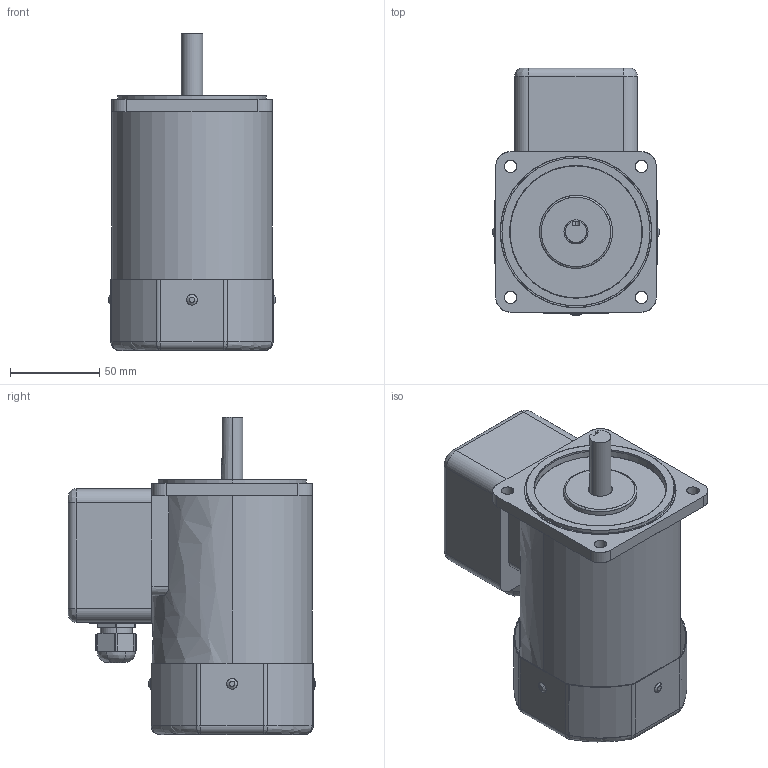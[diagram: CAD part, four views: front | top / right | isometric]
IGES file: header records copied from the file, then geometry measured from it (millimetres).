
Start section: SolidWorks IGES file using analytic representation for surfaces
Bounding box: 94 x 139 x 178 mm (x, y, z)
Surface area: 161814.5 mm2 (no closed solid volume)
Topology: 0 solids, 0 shells, 307 faces, 4871 edges, 4855 vertices
Faces by surface type: bspline 171, revolution 136
